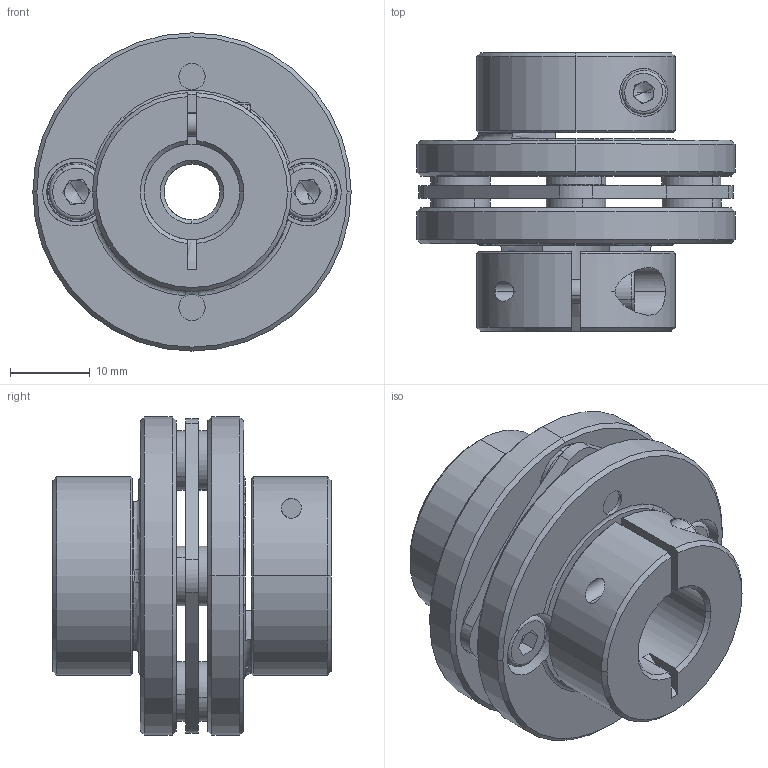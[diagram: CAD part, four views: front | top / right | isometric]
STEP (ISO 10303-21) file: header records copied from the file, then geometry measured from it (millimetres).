
FILE_DESCRIPTION (( 'STEP AP203' ), '1' );
FILE_NAME ('LE1-B-D40L35-7-12.STEP', '2021-11-01T02:08:10', ( '' ), ( '' ), 'SwSTEP 2.0', 'SolidWorks 2018', '' );
FILE_SCHEMA (( 'CONFIG_CONTROL_DESIGN' ));
Length unit declared in the file: millimetre
Products named in the file (1): LE1-B-D40L35-7-12
Bounding box: 40 x 35 x 40 mm (x, y, z)
Volume: 19690.1 mm3; surface area: 12702.3 mm2
Topology: 1 solids, 13 shells, 423 faces, 1021 edges, 630 vertices
Faces by surface type: cylinder 149, plane 140, cone 114, torus 18, bspline 2
Entity records: 12768 total; most frequent: CARTESIAN_POINT 2461, DIRECTION 2335, ORIENTED_EDGE 2018, EDGE_CURVE 1009, AXIS2_PLACEMENT_3D 952, VERTEX_POINT 630, CIRCLE 530, EDGE_LOOP 491
